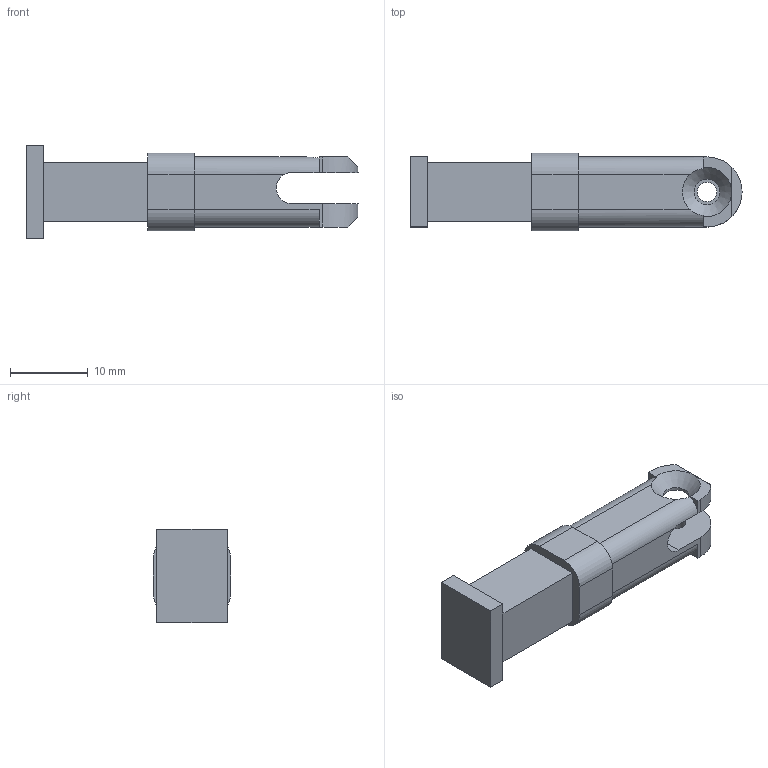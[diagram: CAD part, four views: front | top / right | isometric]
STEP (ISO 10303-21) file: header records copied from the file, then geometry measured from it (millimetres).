
FILE_DESCRIPTION(('Open CASCADE Model'),'2;1');
FILE_NAME('Open CASCADE Shape Model','2026-11-07T08:48:27',('Author'),( 'Open CASCADE'),'Open CASCADE STEP processor 8.0','build123d', 'Unknown');
FILE_SCHEMA(('AUTOMOTIVE_DESIGN { 1 0 10303 214 1 1 1 1 }'));
Length unit declared in the file: millimetre
Products named in the file (1): COMPOUND
Bounding box: 42.62 x 10 x 12 mm (x, y, z)
Volume: 2747 mm3; surface area: 1745 mm2
Topology: 1 solids, 1 shells, 45 faces, 122 edges, 81 vertices
Faces by surface type: plane 31, cylinder 13, cone 1
Full cylindrical faces by diameter (mm): 2.5 x1, 3.3 x1
Entity records: 3207 total; most frequent: CARTESIAN_POINT 821, DIRECTION 425, ORIENTED_EDGE 244, PCURVE 244, DEFINITIONAL_REPRESENTATION 244, LINE 241, VECTOR 241, EDGE_CURVE 122
